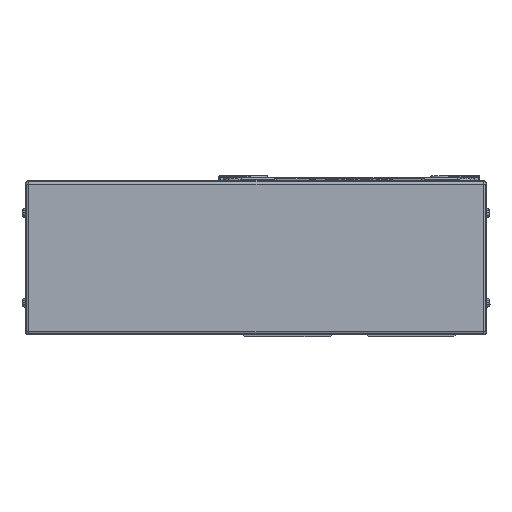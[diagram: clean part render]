
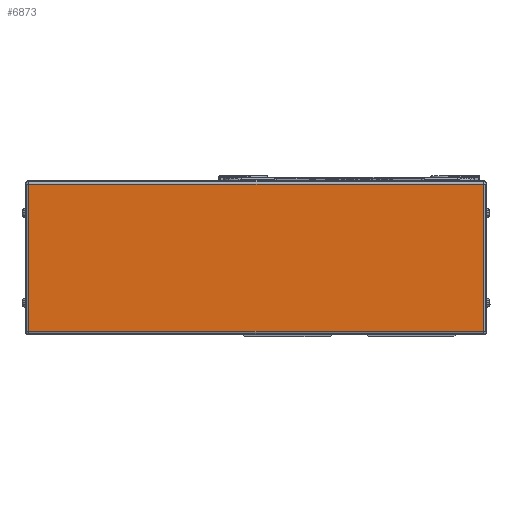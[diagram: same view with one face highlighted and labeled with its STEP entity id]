
A CAD part, left-side view. The second image highlights one B-rep face of the part: STEP entity #6873.
In plain terms, the highlighted planar face has unit normal (-1, 0, 0).
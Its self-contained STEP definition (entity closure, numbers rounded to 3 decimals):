
#6873=ADVANCED_FACE('',(#14380),#14381,.F.);
#14380=FACE_OUTER_BOUND('',#23629,.T.);
#14381=PLANE('',#23630);
#23629=EDGE_LOOP('',(#42886,#42887,#42888,#42889));
#23630=AXIS2_PLACEMENT_3D('',#42890,#42891,#42892);
#42886=ORIENTED_EDGE('',*,*,#54960,.T.);
#42887=ORIENTED_EDGE('',*,*,#57727,.T.);
#42888=ORIENTED_EDGE('',*,*,#50959,.T.);
#42889=ORIENTED_EDGE('',*,*,#57728,.T.);
#42890=CARTESIAN_POINT('',(-45.,180.5,0.));
#42891=DIRECTION('',(1.0,0.,0.));
#42892=DIRECTION('',(0.,0.,1.0));
#50959=EDGE_CURVE('',#60918,#60916,#60919,.T.);
#54960=EDGE_CURVE('',#62998,#67409,#67411,.T.);
#57727=EDGE_CURVE('',#67409,#60918,#71039,.T.);
#57728=EDGE_CURVE('',#60916,#62998,#71040,.T.);
#60916=VERTEX_POINT('',#75387);
#60918=VERTEX_POINT('',#75389);
#60919=LINE('',#75390,#75391);
#62998=VERTEX_POINT('',#78563);
#67409=VERTEX_POINT('',#84480);
#67411=LINE('',#84482,#84483);
#71039=LINE('',#89450,#89451);
#71040=LINE('',#89452,#89453);
#75387=CARTESIAN_POINT('',(-45.,-74.5,41.));
#75389=CARTESIAN_POINT('',(-45.,-74.5,-41.));
#75390=CARTESIAN_POINT('',(-45.,-74.5,0.));
#75391=VECTOR('',#92828,10.0);
#78563=CARTESIAN_POINT('',(-45.,178.5,41.));
#84480=CARTESIAN_POINT('',(-45.,178.5,-41.));
#84482=CARTESIAN_POINT('',(-45.,178.5,0.));
#84483=VECTOR('',#98269,10.0);
#89450=CARTESIAN_POINT('',(-45.,180.5,-41.));
#89451=VECTOR('',#101510,10.0);
#89452=CARTESIAN_POINT('',(-45.,180.5,41.));
#89453=VECTOR('',#101511,10.0);
#92828=DIRECTION('',(0.,0.,1.0));
#98269=DIRECTION('',(0.,0.,-1.0));
#101510=DIRECTION('',(0.,-1.0,0.));
#101511=DIRECTION('',(0.,1.0,0.));
